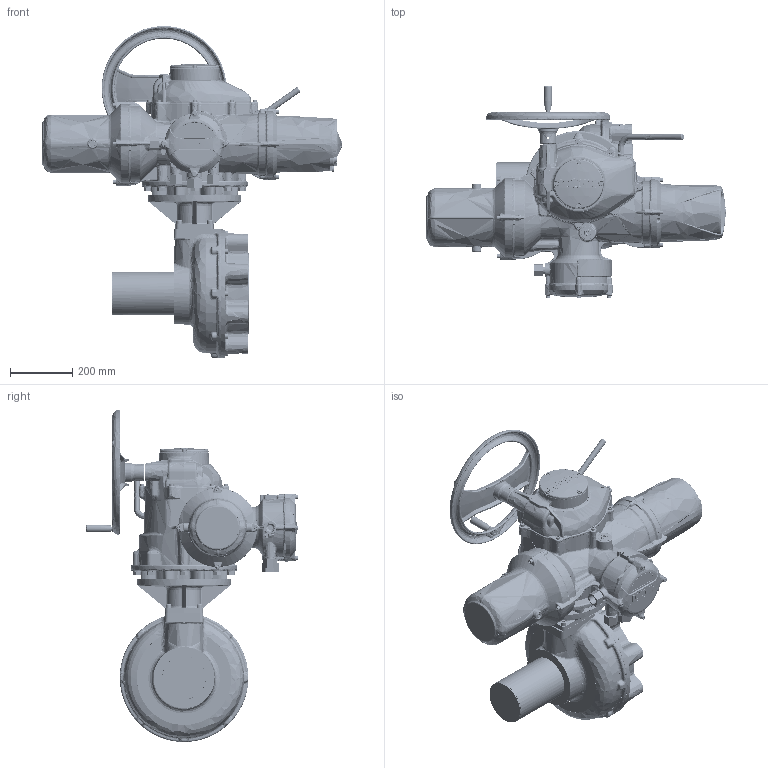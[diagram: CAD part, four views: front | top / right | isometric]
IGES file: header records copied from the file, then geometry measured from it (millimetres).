
Start section: C
Global section: file name: II4SHWIB11STD-1.igs; native system: By Siemens PLM Incorporated; preprocessor: XPlus GENERIC/IGES 18.0.17; author: Author; organization: Title; date: 20160624.100130; units: millimetre
Bounding box: 958.8 x 680.05 x 1063.49 mm (x, y, z)
Surface area: 2626087.2 mm2 (no closed solid volume)
Topology: 0 solids, 0 shells, 9222 faces, 50392 edges, 49935 vertices
Faces by surface type: bspline 9222
